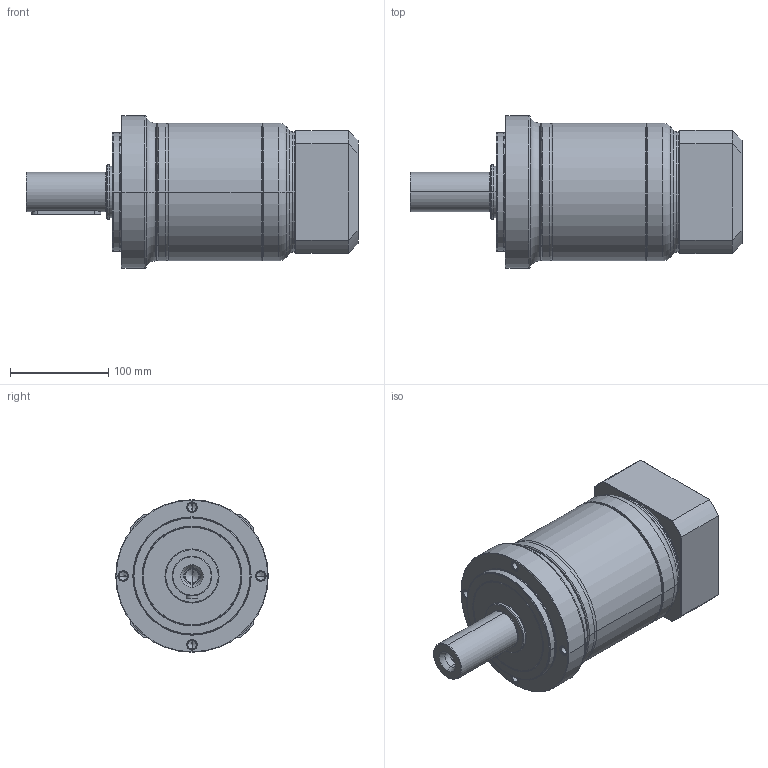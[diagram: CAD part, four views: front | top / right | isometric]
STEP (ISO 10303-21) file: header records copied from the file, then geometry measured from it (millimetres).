
FILE_DESCRIPTION((''),'2;1');
FILE_NAME('PE2-155_2ST_32-P0411700101_ASM','2016-05-03T',('d00435'),(''),'PRO/ENGINEER BY PARAMETRIC TECHNOLOGY CORPORATION, 2008410','PRO/ENGINEER BY PARAMETRIC TECHNOLOGY CORPORATION, 2008410','');
FILE_SCHEMA(('CONFIG_CONTROL_DESIGN'));
Length unit declared in the file: millimetre
Products named in the file (9): P1323510001; P0251500001; P1324500301; P0350501001; P0941503001; P0503700010; P0411700101; P1702600001; PE2-155_2ST_32-P0411700101_ASM
Assembly tree (8 placements, depth 2):
  PE2-155_2ST_32-P0411700101_ASM
    P1323510001
    P0251500001
    P1324500301
    P0350501001
    P0941503001
    P0503700010
    P0411700101
    P1702600001
Bounding box: 337.5 x 155 x 155 mm (x, y, z)
Volume: 2784951.8 mm3; surface area: 393028.2 mm2
Topology: 8 solids, 22 shells, 538 faces, 1202 edges, 708 vertices
Faces by surface type: cylinder 172, cone 148, torus 106, plane 96, bspline 16
Entity records: 19732 total; most frequent: CARTESIAN_POINT 7439, DIRECTION 2837, ORIENTED_EDGE 2276, AXIS2_PLACEMENT_3D 1227, EDGE_CURVE 1166, VERTEX_POINT 708, CIRCLE 678, EDGE_LOOP 618
